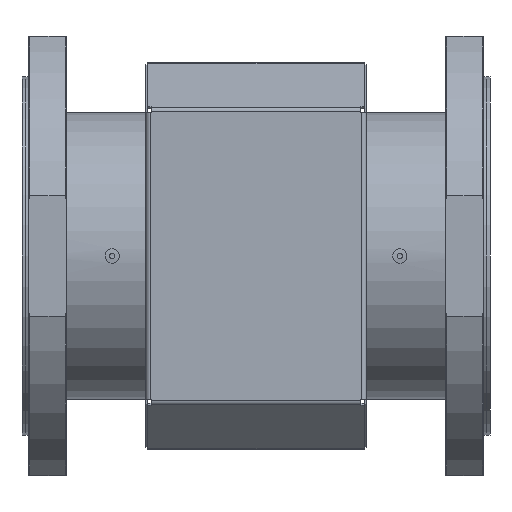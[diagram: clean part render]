
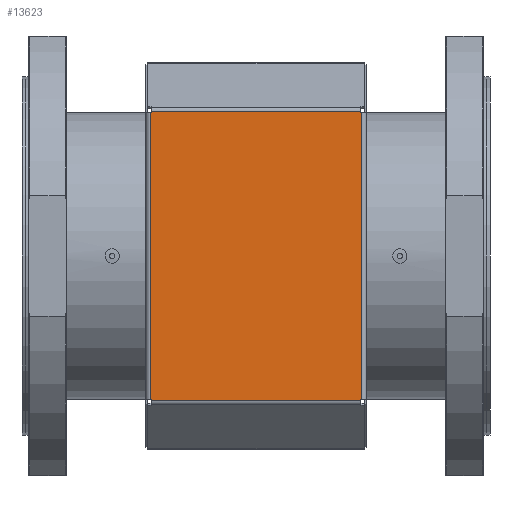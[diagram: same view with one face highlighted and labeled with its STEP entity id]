
A CAD part, front view. The second image highlights one B-rep face of the part: STEP entity #13623.
In plain terms, the highlighted planar face has unit normal (0, -1, 0).
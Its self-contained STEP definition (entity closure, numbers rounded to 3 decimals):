
#206 = DIRECTION ( 'NONE',  ( 0., 0., 1. ) ) ;
#584 = LINE ( 'NONE', #1276, #6692 ) ;
#1247 = EDGE_CURVE ( 'NONE', #5590, #16822, #584, .T. ) ;
#1276 = CARTESIAN_POINT ( 'NONE',  ( -80.25, -164.1, 112.792 ) ) ;
#1420 = LINE ( 'NONE', #8627, #13682 ) ;
#2025 = VERTEX_POINT ( 'NONE', #18803 ) ;
#2412 = CARTESIAN_POINT ( 'NONE',  ( -84.5, -164.1, 109.897 ) ) ;
#2946 = EDGE_CURVE ( 'NONE', #18154, #5785, #13750, .T. ) ;
#3318 = CARTESIAN_POINT ( 'NONE',  ( 80.25, -164.1, 109.897 ) ) ;
#3575 = DIRECTION ( 'NONE',  ( 0., 0., -1. ) ) ;
#3661 = EDGE_CURVE ( 'NONE', #18154, #5932, #18692, .T. ) ;
#3674 = DIRECTION ( 'NONE',  ( 0., 0., 1. ) ) ;
#3690 = EDGE_CURVE ( 'NONE', #25291, #16925, #21233, .T. ) ;
#4014 = CARTESIAN_POINT ( 'NONE',  ( 80.25, -164.1, -110.647 ) ) ;
#4326 = CARTESIAN_POINT ( 'NONE',  ( -84.5, -164.1, -109.897 ) ) ;
#4852 = DIRECTION ( 'NONE',  ( -1., 0., 0. ) ) ;
#4920 = FACE_OUTER_BOUND ( 'NONE', #25249, .T. ) ;
#5001 = VECTOR ( 'NONE', #4852, 1000. ) ;
#5590 = VERTEX_POINT ( 'NONE', #20367 ) ;
#5721 = DIRECTION ( 'NONE',  ( 0., 0., -1. ) ) ;
#5737 = LINE ( 'NONE', #9489, #5001 ) ;
#5784 = ORIENTED_EDGE ( 'NONE', *, *, #17236, .T. ) ;
#5785 = VERTEX_POINT ( 'NONE', #3318 ) ;
#5932 = VERTEX_POINT ( 'NONE', #20186 ) ;
#6364 = ORIENTED_EDGE ( 'NONE', *, *, #26077, .T. ) ;
#6506 = CARTESIAN_POINT ( 'NONE',  ( -80.25, -164.1, -109.897 ) ) ;
#6692 = VECTOR ( 'NONE', #5721, 1000. ) ;
#7398 = LINE ( 'NONE', #13987, #25141 ) ;
#7743 = VECTOR ( 'NONE', #22909, 1000. ) ;
#8226 = CARTESIAN_POINT ( 'NONE',  ( 81., -164.1, 109.897 ) ) ;
#8258 = CARTESIAN_POINT ( 'NONE',  ( -81., -164.1, 109.897 ) ) ;
#8491 = ORIENTED_EDGE ( 'NONE', *, *, #26144, .F. ) ;
#8627 = CARTESIAN_POINT ( 'NONE',  ( -84.5, -164.1, -109.897 ) ) ;
#8861 = VECTOR ( 'NONE', #9359, 1000. ) ;
#9079 = ORIENTED_EDGE ( 'NONE', *, *, #3690, .F. ) ;
#9294 = DIRECTION ( 'NONE',  ( 0., 0., -1. ) ) ;
#9359 = DIRECTION ( 'NONE',  ( -1., 0., 0. ) ) ;
#9489 = CARTESIAN_POINT ( 'NONE',  ( 80.25, -164.1, -110.647 ) ) ;
#9789 = PLANE ( 'NONE',  #15828 ) ;
#9893 = DIRECTION ( 'NONE',  ( 0., 1., 0. ) ) ;
#10746 = VECTOR ( 'NONE', #22886, 1000. ) ;
#10756 = EDGE_CURVE ( 'NONE', #24514, #17624, #25466, .T. ) ;
#11792 = VECTOR ( 'NONE', #3575, 1000. ) ;
#12122 = CARTESIAN_POINT ( 'NONE',  ( -81., -164.1, -109.897 ) ) ;
#12846 = EDGE_CURVE ( 'NONE', #25291, #23627, #1420, .T. ) ;
#13072 = DIRECTION ( 'NONE',  ( 1., 0., 0. ) ) ;
#13623 = ADVANCED_FACE ( 'NONE', ( #4920 ), #9789, .F. ) ;
#13682 = VECTOR ( 'NONE', #13072, 1000. ) ;
#13750 = LINE ( 'NONE', #25192, #10746 ) ;
#13987 = CARTESIAN_POINT ( 'NONE',  ( 80.25, -164.1, 112.792 ) ) ;
#14399 = ORIENTED_EDGE ( 'NONE', *, *, #27324, .F. ) ;
#15500 = ORIENTED_EDGE ( 'NONE', *, *, #12846, .T. ) ;
#15506 = LINE ( 'NONE', #23165, #20956 ) ;
#15811 = CARTESIAN_POINT ( 'NONE',  ( 80.25, -164.1, 110.647 ) ) ;
#15828 = AXIS2_PLACEMENT_3D ( 'NONE', #23792, #9893, #26088 ) ;
#16336 = ORIENTED_EDGE ( 'NONE', *, *, #10756, .T. ) ;
#16726 = LINE ( 'NONE', #4326, #27588 ) ;
#16822 = VERTEX_POINT ( 'NONE', #28431 ) ;
#16925 = VERTEX_POINT ( 'NONE', #8258 ) ;
#17181 = EDGE_CURVE ( 'NONE', #16822, #16925, #26601, .T. ) ;
#17236 = EDGE_CURVE ( 'NONE', #5785, #24595, #7398, .T. ) ;
#17624 = VERTEX_POINT ( 'NONE', #17890 ) ;
#17791 = VECTOR ( 'NONE', #28658, 1000. ) ;
#17890 = CARTESIAN_POINT ( 'NONE',  ( 80.25, -164.1, -109.897 ) ) ;
#18154 = VERTEX_POINT ( 'NONE', #8226 ) ;
#18183 = DIRECTION ( 'NONE',  ( 1., 0., 0. ) ) ;
#18692 = LINE ( 'NONE', #26602, #11792 ) ;
#18803 = CARTESIAN_POINT ( 'NONE',  ( -80.25, -164.1, -110.647 ) ) ;
#19110 = ORIENTED_EDGE ( 'NONE', *, *, #23023, .T. ) ;
#19737 = ORIENTED_EDGE ( 'NONE', *, *, #3661, .F. ) ;
#19842 = CARTESIAN_POINT ( 'NONE',  ( -81., -164.1, -109.897 ) ) ;
#20186 = CARTESIAN_POINT ( 'NONE',  ( 81., -164.1, -109.897 ) ) ;
#20367 = CARTESIAN_POINT ( 'NONE',  ( -80.25, -164.1, 110.647 ) ) ;
#20956 = VECTOR ( 'NONE', #9294, 1000. ) ;
#21233 = LINE ( 'NONE', #19842, #27356 ) ;
#21951 = ORIENTED_EDGE ( 'NONE', *, *, #1247, .T. ) ;
#22886 = DIRECTION ( 'NONE',  ( -1., 0., 0. ) ) ;
#22909 = DIRECTION ( 'NONE',  ( 0., 0., 1. ) ) ;
#23023 = EDGE_CURVE ( 'NONE', #17624, #5932, #16726, .T. ) ;
#23107 = CARTESIAN_POINT ( 'NONE',  ( 80.25, -164.1, 112.792 ) ) ;
#23165 = CARTESIAN_POINT ( 'NONE',  ( -80.25, -164.1, 112.792 ) ) ;
#23627 = VERTEX_POINT ( 'NONE', #6506 ) ;
#23792 = CARTESIAN_POINT ( 'NONE',  ( -84.5, -164.1, 112.792 ) ) ;
#23964 = LINE ( 'NONE', #28560, #17791 ) ;
#24004 = ORIENTED_EDGE ( 'NONE', *, *, #17181, .T. ) ;
#24514 = VERTEX_POINT ( 'NONE', #4014 ) ;
#24595 = VERTEX_POINT ( 'NONE', #15811 ) ;
#25141 = VECTOR ( 'NONE', #206, 1000. ) ;
#25192 = CARTESIAN_POINT ( 'NONE',  ( -84.5, -164.1, 109.897 ) ) ;
#25249 = EDGE_LOOP ( 'NONE', ( #19737, #27259, #5784, #14399, #21951, #24004, #9079, #15500, #6364, #8491, #16336, #19110 ) ) ;
#25291 = VERTEX_POINT ( 'NONE', #12122 ) ;
#25466 = LINE ( 'NONE', #23107, #7743 ) ;
#26077 = EDGE_CURVE ( 'NONE', #23627, #2025, #15506, .T. ) ;
#26088 = DIRECTION ( 'NONE',  ( 0., 0., -1. ) ) ;
#26144 = EDGE_CURVE ( 'NONE', #24514, #2025, #5737, .T. ) ;
#26601 = LINE ( 'NONE', #2412, #8861 ) ;
#26602 = CARTESIAN_POINT ( 'NONE',  ( 81., -164.1, 109.897 ) ) ;
#27259 = ORIENTED_EDGE ( 'NONE', *, *, #2946, .T. ) ;
#27324 = EDGE_CURVE ( 'NONE', #5590, #24595, #23964, .T. ) ;
#27356 = VECTOR ( 'NONE', #3674, 1000. ) ;
#27588 = VECTOR ( 'NONE', #18183, 1000. ) ;
#28431 = CARTESIAN_POINT ( 'NONE',  ( -80.25, -164.1, 109.897 ) ) ;
#28560 = CARTESIAN_POINT ( 'NONE',  ( -80.25, -164.1, 110.647 ) ) ;
#28658 = DIRECTION ( 'NONE',  ( 1., 0., 0. ) ) ;
